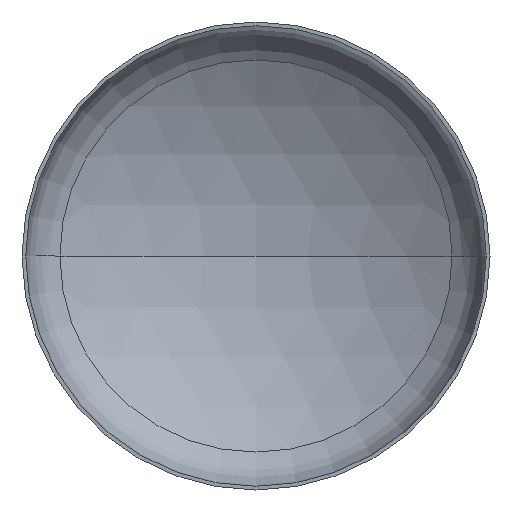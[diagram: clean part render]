
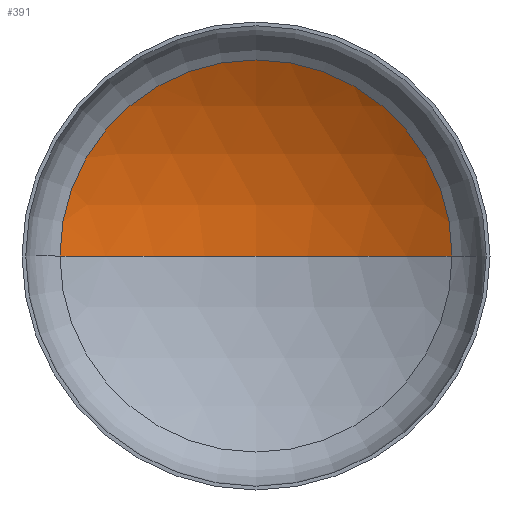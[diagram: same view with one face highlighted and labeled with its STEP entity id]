
A CAD part, front view. The second image highlights one B-rep face of the part: STEP entity #391.
In plain terms, the highlighted spherical face has radius 1200 mm.
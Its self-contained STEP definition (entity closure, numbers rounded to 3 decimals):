
#11 = CARTESIAN_POINT ( 'NONE',  ( 0., -786.339, 0. ) ) ;
#13 = VERTEX_POINT ( 'NONE', #315 ) ;
#51 = ORIENTED_EDGE ( 'NONE', *, *, #189, .T. ) ;
#52 = VERTEX_POINT ( 'NONE', #187 ) ;
#55 = ORIENTED_EDGE ( 'NONE', *, *, #191, .F. ) ;
#76 = CARTESIAN_POINT ( 'NONE',  ( 628.454, 235.936, 0. ) ) ;
#82 = EDGE_LOOP ( 'NONE', ( #55, #91, #51 ) ) ;
#91 = ORIENTED_EDGE ( 'NONE', *, *, #190, .T. ) ;
#95 = VERTEX_POINT ( 'NONE', #76 ) ;
#122 = CIRCLE ( 'NONE', #125, 1200. ) ;
#123 = AXIS2_PLACEMENT_3D ( 'NONE', #299, #131, #320 ) ;
#125 = AXIS2_PLACEMENT_3D ( 'NONE', #381, #245, #405 ) ;
#126 = AXIS2_PLACEMENT_3D ( 'NONE', #168, #340, #197 ) ;
#131 = DIRECTION ( 'NONE',  ( 0., 0., 1. ) ) ;
#168 = CARTESIAN_POINT ( 'NONE',  ( 0., 235.936, 0. ) ) ;
#187 = CARTESIAN_POINT ( 'NONE',  ( 0., 413.661, 0. ) ) ;
#189 = EDGE_CURVE ( 'NONE', #95, #13, #213, .T. ) ;
#190 = EDGE_CURVE ( 'NONE', #52, #95, #122, .T. ) ;
#191 = EDGE_CURVE ( 'NONE', #52, #13, #199, .T. ) ;
#197 = DIRECTION ( 'NONE',  ( 1., 0., 0. ) ) ;
#199 = CIRCLE ( 'NONE', #123, 1200. ) ;
#213 = CIRCLE ( 'NONE', #126, 628.454 ) ;
#216 = SPHERICAL_SURFACE ( 'NONE', #269, 1200. ) ;
#245 = DIRECTION ( 'NONE',  ( 0., 0., -1. ) ) ;
#269 = AXIS2_PLACEMENT_3D ( 'NONE', #11, #347, #327 ) ;
#277 = FACE_OUTER_BOUND ( 'NONE', #82, .T. ) ;
#299 = CARTESIAN_POINT ( 'NONE',  ( 0., -786.339, 0. ) ) ;
#315 = CARTESIAN_POINT ( 'NONE',  ( -628.454, 235.936, 0. ) ) ;
#320 = DIRECTION ( 'NONE',  ( 1., 0., 0. ) ) ;
#327 = DIRECTION ( 'NONE',  ( -1., 0., 0. ) ) ;
#340 = DIRECTION ( 'NONE',  ( 0., -1., 0. ) ) ;
#347 = DIRECTION ( 'NONE',  ( 0., 0., -1. ) ) ;
#381 = CARTESIAN_POINT ( 'NONE',  ( 0., -786.339, 0. ) ) ;
#391 = ADVANCED_FACE ( 'NONE', ( #277 ), #216, .F. ) ;
#405 = DIRECTION ( 'NONE',  ( -1., 0., 0. ) ) ;
